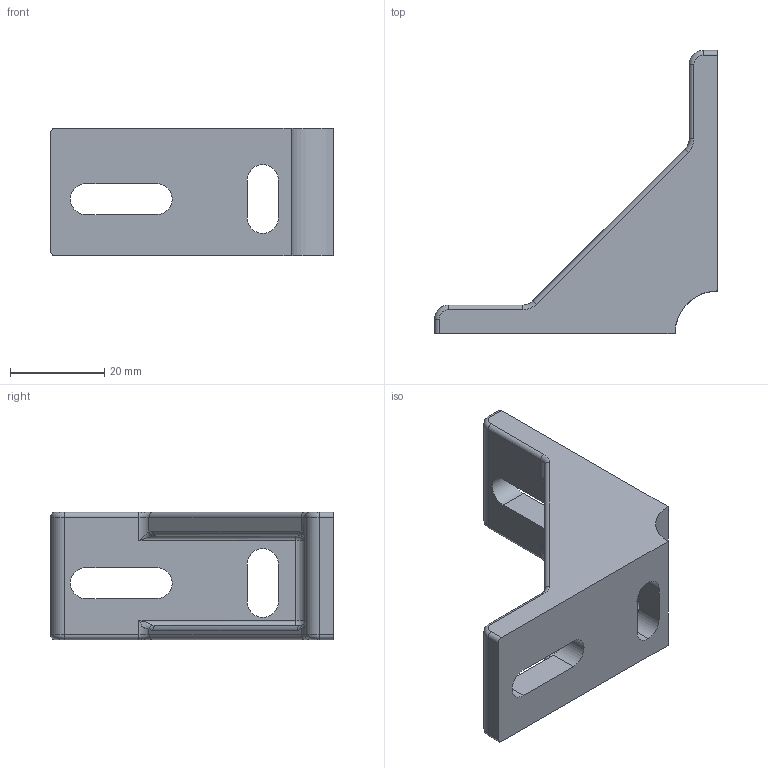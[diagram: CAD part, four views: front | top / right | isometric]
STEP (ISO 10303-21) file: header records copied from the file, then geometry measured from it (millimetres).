
FILE_DESCRIPTION (( 'STEP AP203' ), '1' );
FILE_NAME ('WT2760-6.STEP', '2024-02-19T01:00:35', ( '' ), ( '' ), 'SwSTEP 2.0', 'SolidWorks 2022', '' );
FILE_SCHEMA (( 'CONFIG_CONTROL_DESIGN' ));
Length unit declared in the file: millimetre
Products named in the file (1): WT2760-6
Bounding box: 60 x 60 x 27 mm (x, y, z)
Volume: 18614.3 mm3; surface area: 9660.6 mm2
Topology: 1 solids, 1 shells, 72 faces, 182 edges, 108 vertices
Faces by surface type: cylinder 33, plane 20, torus 10, bspline 9
Entity records: 2751 total; most frequent: CARTESIAN_POINT 993, ORIENTED_EDGE 356, DIRECTION 346, EDGE_CURVE 178, AXIS2_PLACEMENT_3D 130, VERTEX_POINT 108, LINE 86, VECTOR 86
